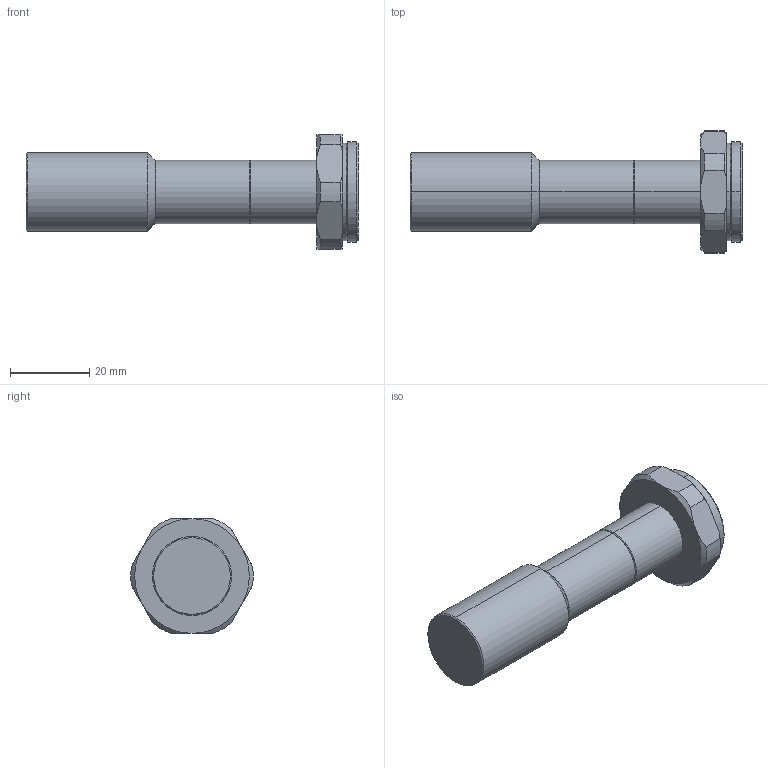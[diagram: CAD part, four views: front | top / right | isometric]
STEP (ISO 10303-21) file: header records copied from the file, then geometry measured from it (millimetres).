
FILE_DESCRIPTION (( 'STEP AP203' ), '1' );
FILE_NAME ('TS-APT08X65_Drawing_M0250D-A001.STEP', '2023-01-31T05:49:45', ( '' ), ( '' ), 'SwSTEP 2.0', 'SolidWorks 2021', '' );
FILE_SCHEMA (( 'CONFIG_CONTROL_DESIGN' ));
Length unit declared in the file: millimetre
Products named in the file (1): TS-APT08X65_Drawing_M0250D-A001
Bounding box: 83.97 x 30.95 x 29 mm (x, y, z)
Volume: 24918.3 mm3; surface area: 6604.4 mm2
Topology: 1 solids, 1 shells, 53 faces, 120 edges, 72 vertices
Faces by surface type: cone 26, cylinder 16, plane 11
Entity records: 1605 total; most frequent: CARTESIAN_POINT 346, DIRECTION 258, ORIENTED_EDGE 240, EDGE_CURVE 120, AXIS2_PLACEMENT_3D 108, VERTEX_POINT 72, EDGE_LOOP 56, CIRCLE 54
